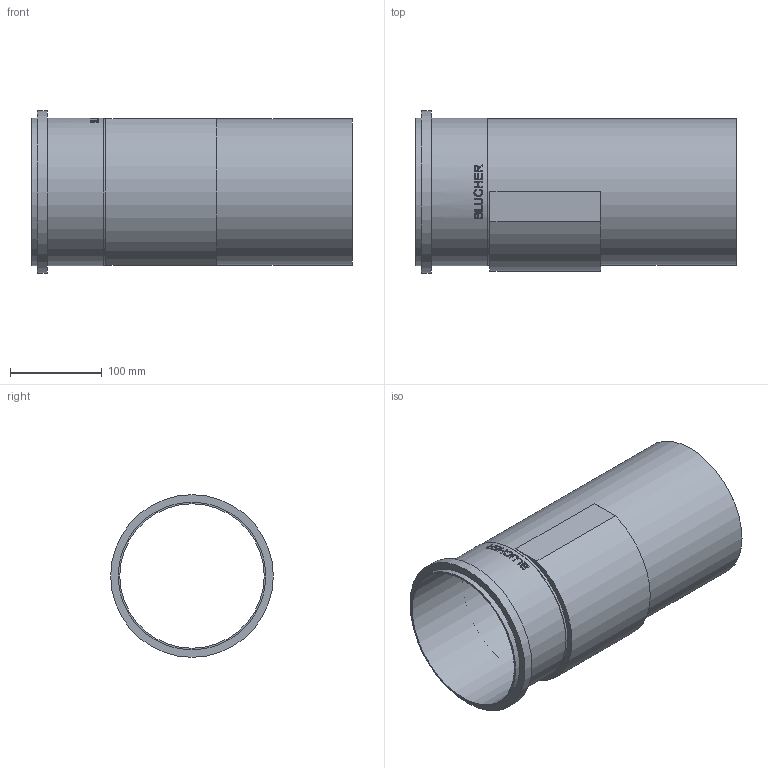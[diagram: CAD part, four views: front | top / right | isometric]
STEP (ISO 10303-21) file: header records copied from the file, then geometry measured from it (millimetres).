
FILE_DESCRIPTION((''),'2;1');
FILE_NAME('I:\WATTS\3D_CAD\3D_CAD_Models\Blucher_Drains\Fittings\Access Fittings\WebsiteFiles\3D\STEP\AP-6-316.stp','2009-12-22T10:27:07',('menesek'),(''),'Autodesk Inventor 2010','Autodesk Inventor 2010','');
FILE_SCHEMA(('AUTOMOTIVE_DESIGN { 1 0 10303 214 1 1 1 1 }'));
Length unit declared in the file: inch
Products named in the file (1): AP-6-316
Bounding box: 349.19 x 177.04 x 177.04 mm (x, y, z)
Volume: 453141 mm3; surface area: 363988.8 mm2
Topology: 1 solids, 1 shells, 113 faces, 291 edges, 194 vertices
Faces by surface type: plane 63, bspline 34, cylinder 16
Full cylindrical faces by diameter (mm): 157.226 x1, 159.766 x1, 160.782 x2, 177.038 x1
Entity records: 14187 total; most frequent: CARTESIAN_POINT 11688, ORIENTED_EDGE 572, DIRECTION 382, EDGE_CURVE 286, VERTEX_POINT 194, EDGE_LOOP 134, AXIS2_PLACEMENT_3D 129, VECTOR 124
